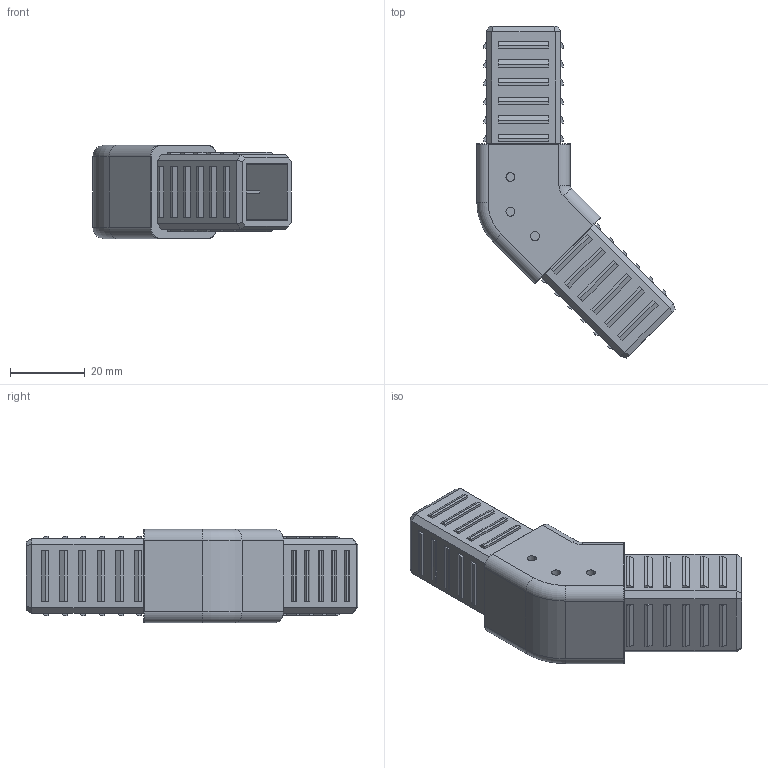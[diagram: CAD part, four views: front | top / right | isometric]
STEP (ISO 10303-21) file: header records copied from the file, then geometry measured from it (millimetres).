
FILE_DESCRIPTION (( 'STEP AP214' ), '1' );
FILE_NAME ('013.025.112.STEP', '2022-02-17T14:12:56', ( '' ), ( '' ), 'SwSTEP 2.0', 'SolidWorks 2018', '' );
FILE_SCHEMA (( 'AUTOMOTIVE_DESIGN' ));
Length unit declared in the file: millimetre
Products named in the file (1): 013.025.112
Bounding box: 53.13 x 88.95 x 25 mm (x, y, z)
Volume: 25292 mm3; surface area: 18743.3 mm2
Topology: 1 solids, 1 shells, 357 faces, 874 edges, 568 vertices
Faces by surface type: plane 313, cylinder 32, torus 12
Entity records: 11940 total; most frequent: CARTESIAN_POINT 1812, ORIENTED_EDGE 1748, DIRECTION 1654, EDGE_CURVE 874, VECTOR 802, LINE 802, VERTEX_POINT 568, AXIS2_PLACEMENT_3D 426
